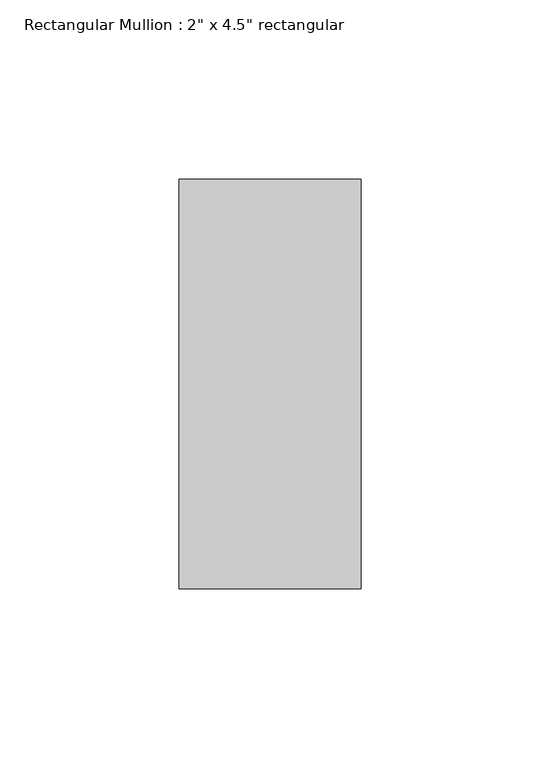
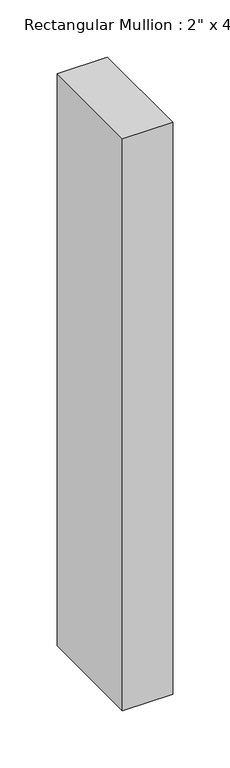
"""IFC4 building model written with IfcOpenShell, lengths in millimetres: member geometry."""

from ifc_helpers import new_model, si_unit, frame, origin, place, context, project, spatial, polyline, outline, extrude, source, transform, mapped, element, save


def member_71e516ba(model_context):
    return source(origin(), model_context, "Body", "SweptSolid", [
        extrude(outline(polyline([(0.0, 57.15), (0.0, -57.15), (-50.8, -57.15), (-50.8, 57.15), (0.0, 57.15)])), frame((0.0, 0.0, -611.100915), z_axis=(0.0, 0.0, 1.0), x_axis=(1.0, 0.0, 0.0)), (0.0, 0.0, 1.0), 611.100915),
    ])


if __name__ == "__main__":
    model = new_model("IFC4")
    model_context = context("Model", 3, world=origin())
    ifc_project = project(units=[si_unit("LENGTHUNIT", "METRE", prefix="MILLI")], contexts=[model_context])
    site = spatial("IfcSite", under=ifc_project)
    building = spatial("IfcBuilding", under=site)
    placement = place(None, origin())
    member_shape = member_71e516ba(model_context)
    element("IfcMember", 1, ObjectType="Rectangular Mullion : 2\" x 4.5\" rectangular", at=placement, inside=building, context=model_context, shape_type="MappedRepresentation", body=[
        mapped(member_shape, transform((0.0, 0.0, 0.0), x_axis=(1.0, 0.0, 0.0), y_axis=(0.0, 1.0, 0.0), z_axis=(0.0, 0.0, 1.0))),
    ])
    save(model, "model.ifc")
